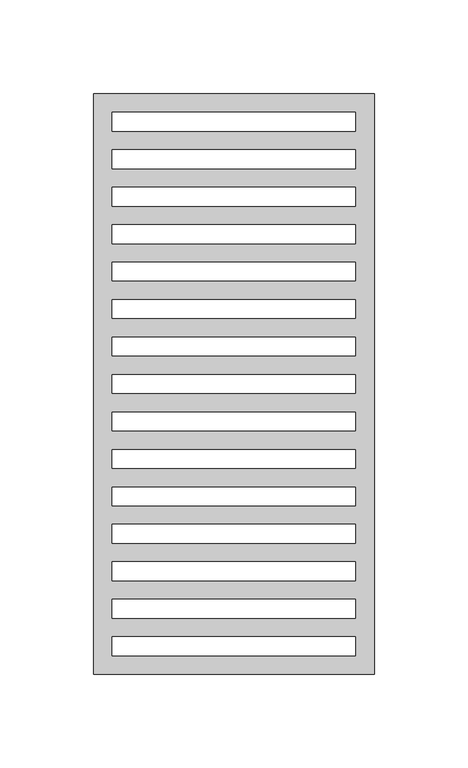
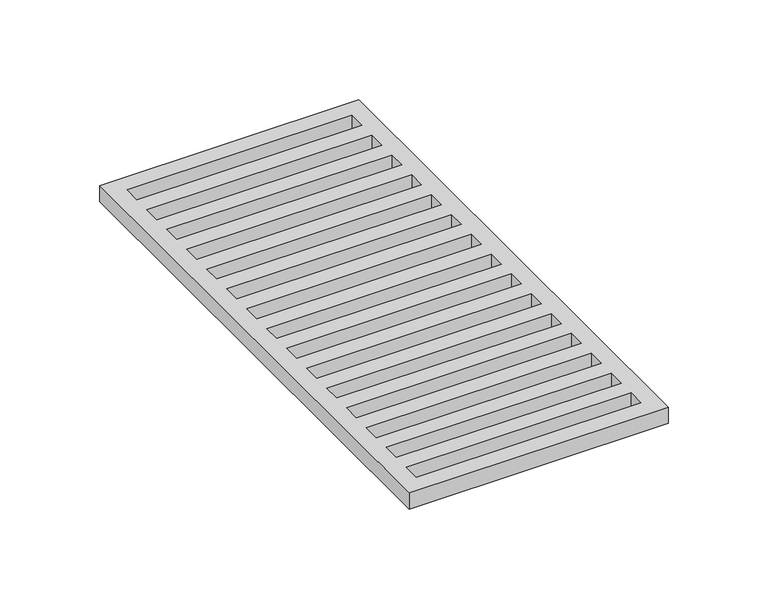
"""IFC4 building model written with IfcOpenShell, lengths in millimetres: proxy geometry, grelha p chuva : grelha p chuva."""

from ifc_helpers import new_model, si_unit, frame, origin, place, context, project, spatial, polyline, outline, extrude, source, transform, mapped, element, save


def generic_models_fae53533(model_context):
    return source(origin(), model_context, "Body", "SweptSolid", [
        extrude(outline(polyline([(75.0, -150.0), (-75.0, -150.0), (-75.0, 160.0), (75.0, 160.0), (75.0, -150.0)]), holes=[polyline([(-65.0, 150.0), (-65.0, 140.0), (65.0, 140.0), (65.0, 150.0), (-65.0, 150.0)]), polyline([(65.0, -130.0), (-65.0, -130.0), (-65.0, -140.0), (65.0, -140.0), (65.0, -130.0)]), polyline([(65.0, -120.0), (65.0, -110.0), (-65.0, -110.0), (-65.0, -120.0), (65.0, -120.0)]), polyline([(65.0, -100.0), (65.0, -90.0), (-65.0, -90.0), (-65.0, -100.0), (65.0, -100.0)]), polyline([(65.0, -80.0), (65.0, -70.0), (-65.0, -70.0), (-65.0, -80.0), (65.0, -80.0)]), polyline([(65.0, -60.0), (65.0, -50.0), (-65.0, -50.0), (-65.0, -60.0), (65.0, -60.0)]), polyline([(65.0, -40.0), (65.0, -30.0), (-65.0, -30.0), (-65.0, -40.0), (65.0, -40.0)]), polyline([(65.0, -20.0), (65.0, -10.0), (-65.0, -10.0), (-65.0, -20.0), (65.0, -20.0)]), polyline([(65.0, 0.0), (65.0, 10.0), (-65.0, 10.0), (-65.0, 0.0), (65.0, 0.0)]), polyline([(65.0, 20.0), (65.0, 30.0), (-65.0, 30.0), (-65.0, 20.0), (65.0, 20.0)]), polyline([(65.0, 40.0), (65.0, 50.0), (-65.0, 50.0), (-65.0, 40.0), (65.0, 40.0)]), polyline([(65.0, 60.0), (65.0, 70.0), (-65.0, 70.0), (-65.0, 60.0), (65.0, 60.0)]), polyline([(65.0, 80.0), (65.0, 90.0), (-65.0, 90.0), (-65.0, 80.0), (65.0, 80.0)]), polyline([(65.0, 100.0), (65.0, 110.0), (-65.0, 110.0), (-65.0, 100.0), (65.0, 100.0)]), polyline([(65.0, 120.0), (65.0, 130.0), (-65.0, 130.0), (-65.0, 120.0), (65.0, 120.0)])]), frame((0.0, 0.0, -9.0), z_axis=(0.0, 0.0, 1.0), x_axis=(1.0, 0.0, 0.0)), (0.0, 0.0, 1.0), 10.0),
    ])


if __name__ == "__main__":
    model = new_model("IFC4")
    model_context = context("Model", 3, world=origin())
    ifc_project = project(units=[si_unit("LENGTHUNIT", "METRE", prefix="MILLI")], contexts=[model_context])
    site = spatial("IfcSite", under=ifc_project)
    building = spatial("IfcBuilding", under=site)
    placement = place(None, origin())
    generic_models_shape = generic_models_fae53533(model_context)
    element("IfcBuildingElementProxy", 1, Name="grelha p chuva : grelha p chuva", ObjectType="grelha p chuva : grelha p chuva", at=placement, inside=building, context=model_context, shape_type="MappedRepresentation", body=[
        mapped(generic_models_shape, transform((0.0, 0.0, 0.0), x_axis=(1.0, 0.0, 0.0), y_axis=(0.0, 1.0, 0.0), z_axis=(0.0, 0.0, 1.0))),
    ])
    save(model, "model.ifc")
